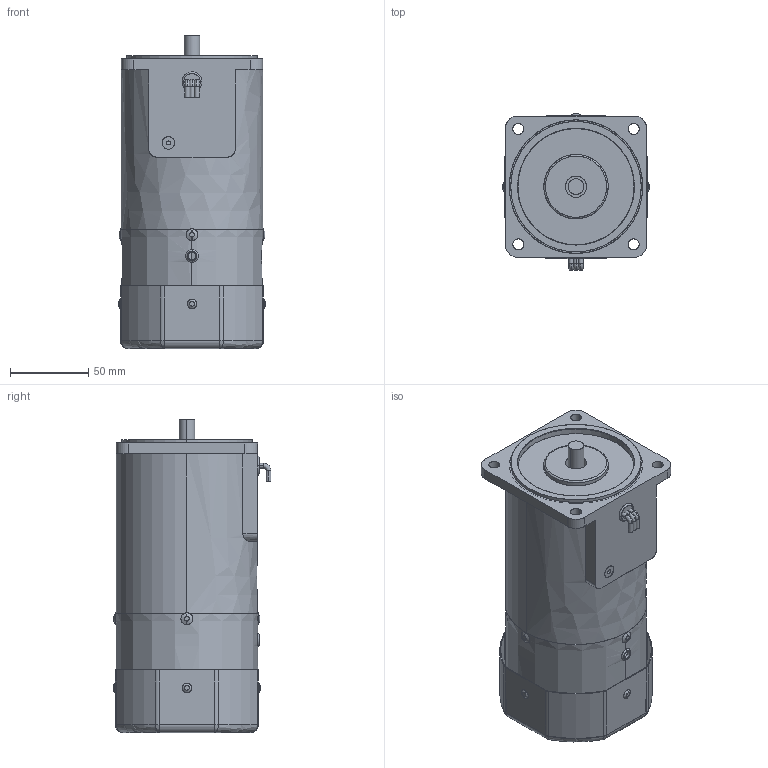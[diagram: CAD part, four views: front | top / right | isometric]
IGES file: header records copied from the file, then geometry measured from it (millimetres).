
Start section: SolidWorks IGES file using analytic representation for surfaces
Bounding box: 94 x 100.5 x 199.5 mm (x, y, z)
Surface area: 180369.7 mm2 (no closed solid volume)
Topology: 0 solids, 0 shells, 280 faces, 6000 edges, 5984 vertices
Faces by surface type: revolution 158, bspline 122
